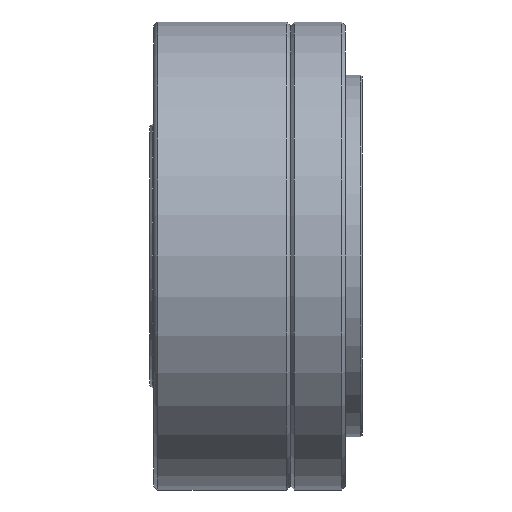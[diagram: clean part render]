
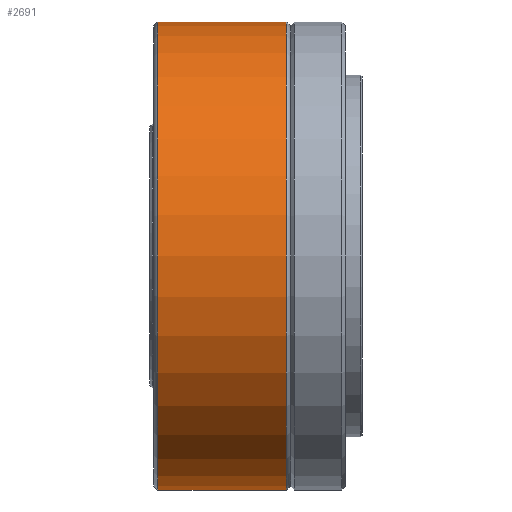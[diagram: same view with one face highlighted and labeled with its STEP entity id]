
A CAD part, front view. The second image highlights one B-rep face of the part: STEP entity #2691.
In plain terms, the highlighted cylindrical face has radius 27.5 mm (diameter 55 mm), a partial arc.
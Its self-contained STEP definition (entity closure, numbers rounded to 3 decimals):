
#244 = CARTESIAN_POINT ( 'NONE',  ( -8.384, 0.589, 55. ) ) ;
#420 = VERTEX_POINT ( 'NONE', #5429 ) ;
#466 = VECTOR ( 'NONE', #1012, 1000. ) ;
#663 = LINE ( 'NONE', #6887, #466 ) ;
#931 = DIRECTION ( 'NONE',  ( 0., 0., 1. ) ) ;
#976 = DIRECTION ( 'NONE',  ( -1., 0., 0. ) ) ;
#1012 = DIRECTION ( 'NONE',  ( -1., 0., 0. ) ) ;
#1031 = EDGE_CURVE ( 'NONE', #1797, #1638, #663, .T. ) ;
#1638 = VERTEX_POINT ( 'NONE', #5376 ) ;
#1741 = EDGE_CURVE ( 'NONE', #1797, #7725, #3965, .T. ) ;
#1797 = VERTEX_POINT ( 'NONE', #6999 ) ;
#2191 = AXIS2_PLACEMENT_3D ( 'NONE', #8182, #7550, #6857 ) ;
#2691 = ADVANCED_FACE ( 'NONE', ( #6763 ), #3281, .T. ) ;
#2846 = ORIENTED_EDGE ( 'NONE', *, *, #1031, .F. ) ;
#3281 = CYLINDRICAL_SURFACE ( 'NONE', #2191, 27.5 ) ;
#3462 = AXIS2_PLACEMENT_3D ( 'NONE', #244, #4861, #931 ) ;
#3466 = ORIENTED_EDGE ( 'NONE', *, *, #7918, .T. ) ;
#3763 = ORIENTED_EDGE ( 'NONE', *, *, #4011, .F. ) ;
#3965 = CIRCLE ( 'NONE', #7865, 27.5 ) ;
#4011 = EDGE_CURVE ( 'NONE', #1638, #420, #5359, .T. ) ;
#4861 = DIRECTION ( 'NONE',  ( -1., 0., 0. ) ) ;
#4910 = CARTESIAN_POINT ( 'NONE',  ( 6.728, 0.589, 55. ) ) ;
#5359 = CIRCLE ( 'NONE', #3462, 27.5 ) ;
#5376 = CARTESIAN_POINT ( 'NONE',  ( -8.384, 0.589, 27.5 ) ) ;
#5429 = CARTESIAN_POINT ( 'NONE',  ( -8.384, 0.589, 82.5 ) ) ;
#5452 = CARTESIAN_POINT ( 'NONE',  ( 6.728, 0.589, 82.5 ) ) ;
#5557 = DIRECTION ( 'NONE',  ( 0., 0., 1. ) ) ;
#6124 = EDGE_LOOP ( 'NONE', ( #2846, #6282, #3466, #3763 ) ) ;
#6282 = ORIENTED_EDGE ( 'NONE', *, *, #1741, .T. ) ;
#6763 = FACE_OUTER_BOUND ( 'NONE', #6124, .T. ) ;
#6850 = LINE ( 'NONE', #7095, #8432 ) ;
#6857 = DIRECTION ( 'NONE',  ( 0., 0., 1. ) ) ;
#6887 = CARTESIAN_POINT ( 'NONE',  ( -12.748, 0.589, 27.5 ) ) ;
#6999 = CARTESIAN_POINT ( 'NONE',  ( 6.728, 0.589, 27.5 ) ) ;
#7095 = CARTESIAN_POINT ( 'NONE',  ( -12.748, 0.589, 82.5 ) ) ;
#7550 = DIRECTION ( 'NONE',  ( -1., 0., 0. ) ) ;
#7725 = VERTEX_POINT ( 'NONE', #5452 ) ;
#7786 = DIRECTION ( 'NONE',  ( -1., 0., 0. ) ) ;
#7865 = AXIS2_PLACEMENT_3D ( 'NONE', #4910, #976, #5557 ) ;
#7918 = EDGE_CURVE ( 'NONE', #7725, #420, #6850, .T. ) ;
#8182 = CARTESIAN_POINT ( 'NONE',  ( -12.748, 0.589, 55. ) ) ;
#8432 = VECTOR ( 'NONE', #7786, 1000. ) ;
